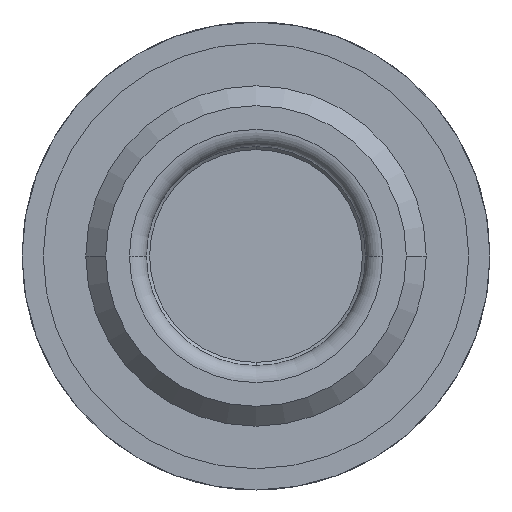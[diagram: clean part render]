
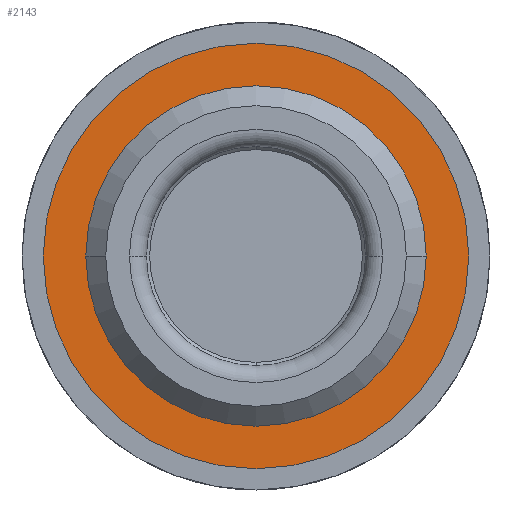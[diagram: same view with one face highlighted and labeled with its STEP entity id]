
A CAD part, front view. The second image highlights one B-rep face of the part: STEP entity #2143.
In plain terms, the highlighted planar face has unit normal (0, -1, 0) as drawn and (0, 0, -1) by its records, which use the part's own axes.
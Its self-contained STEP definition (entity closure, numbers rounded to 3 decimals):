
#56 = AXIS2_PLACEMENT_3D ( 'NONE', #1982, #1946, #1977 ) ;
#88 = CIRCLE ( 'NONE', #2850, 10. ) ;
#273 = EDGE_CURVE ( 'NONE', #1609, #2734, #88, .T. ) ;
#410 = AXIS2_PLACEMENT_3D ( 'NONE', #1841, #1338, #1816 ) ;
#488 = CIRCLE ( 'NONE', #56, 7.75 ) ;
#648 = FACE_BOUND ( 'NONE', #1149, .T. ) ;
#761 = CARTESIAN_POINT ( 'NONE',  ( -10., 0., 0. ) ) ;
#900 = EDGE_CURVE ( 'NONE', #2678, #1156, #488, .T. ) ;
#940 = EDGE_CURVE ( 'NONE', #2734, #1609, #1616, .T. ) ;
#973 = ORIENTED_EDGE ( 'NONE', *, *, #900, .T. ) ;
#1006 = DIRECTION ( 'NONE',  ( 1., 0., 0. ) ) ;
#1149 = EDGE_LOOP ( 'NONE', ( #973, #1660 ) ) ;
#1156 = VERTEX_POINT ( 'NONE', #1179 ) ;
#1179 = CARTESIAN_POINT ( 'NONE',  ( 7.75, 0., 0. ) ) ;
#1247 = CIRCLE ( 'NONE', #2078, 7.75 ) ;
#1317 = CARTESIAN_POINT ( 'NONE',  ( 10., 0., 0. ) ) ;
#1338 = DIRECTION ( 'NONE',  ( 0., 0., 1. ) ) ;
#1369 = CARTESIAN_POINT ( 'NONE',  ( -7.75, 0., 0. ) ) ;
#1609 = VERTEX_POINT ( 'NONE', #761 ) ;
#1616 = CIRCLE ( 'NONE', #410, 10. ) ;
#1660 = ORIENTED_EDGE ( 'NONE', *, *, #1909, .T. ) ;
#1816 = DIRECTION ( 'NONE',  ( 1., 0., 0. ) ) ;
#1841 = CARTESIAN_POINT ( 'NONE',  ( 0., 0., 0. ) ) ;
#1909 = EDGE_CURVE ( 'NONE', #1156, #2678, #1247, .T. ) ;
#1946 = DIRECTION ( 'NONE',  ( 0., 0., 1. ) ) ;
#1968 = EDGE_LOOP ( 'NONE', ( #2230, #2921 ) ) ;
#1977 = DIRECTION ( 'NONE',  ( 1., 0., 0. ) ) ;
#1982 = CARTESIAN_POINT ( 'NONE',  ( 0., 0., 0. ) ) ;
#2019 = AXIS2_PLACEMENT_3D ( 'NONE', #2326, #2320, #1006 ) ;
#2025 = FACE_OUTER_BOUND ( 'NONE', #1968, .T. ) ;
#2078 = AXIS2_PLACEMENT_3D ( 'NONE', #2760, #2755, #2750 ) ;
#2143 = ADVANCED_FACE ( 'NONE', ( #2025, #648 ), #2324, .F. ) ;
#2230 = ORIENTED_EDGE ( 'NONE', *, *, #273, .F. ) ;
#2320 = DIRECTION ( 'NONE',  ( 0., 0., 1. ) ) ;
#2324 = PLANE ( 'NONE',  #2019 ) ;
#2326 = CARTESIAN_POINT ( 'NONE',  ( 0., 0., 0. ) ) ;
#2451 = CARTESIAN_POINT ( 'NONE',  ( 0., 0., 0. ) ) ;
#2457 = DIRECTION ( 'NONE',  ( 1., 0., 0. ) ) ;
#2464 = DIRECTION ( 'NONE',  ( 0., 0., 1. ) ) ;
#2678 = VERTEX_POINT ( 'NONE', #1369 ) ;
#2734 = VERTEX_POINT ( 'NONE', #1317 ) ;
#2750 = DIRECTION ( 'NONE',  ( 1., 0., 0. ) ) ;
#2755 = DIRECTION ( 'NONE',  ( 0., 0., 1. ) ) ;
#2760 = CARTESIAN_POINT ( 'NONE',  ( 0., 0., 0. ) ) ;
#2850 = AXIS2_PLACEMENT_3D ( 'NONE', #2451, #2464, #2457 ) ;
#2921 = ORIENTED_EDGE ( 'NONE', *, *, #940, .F. ) ;
